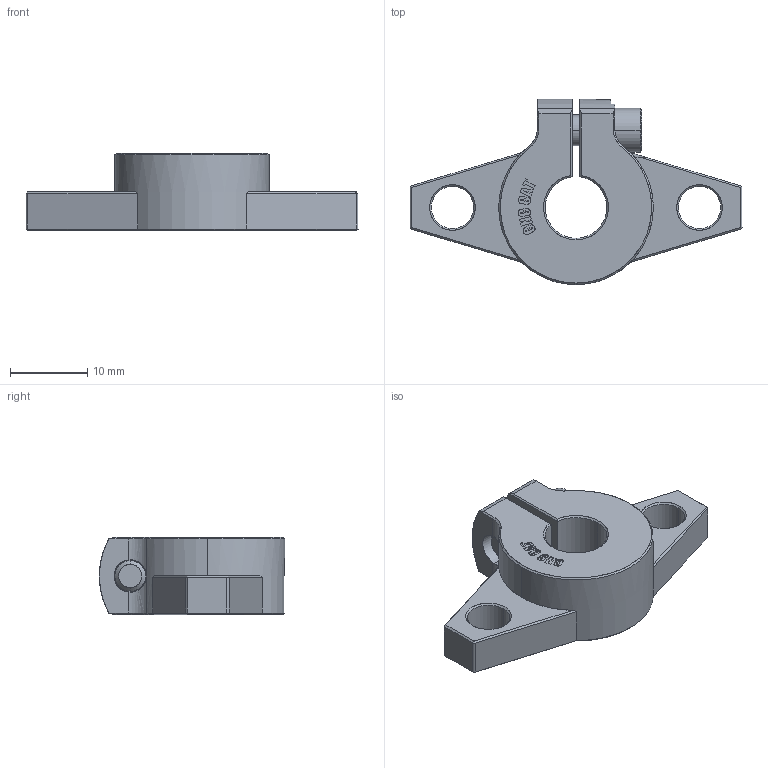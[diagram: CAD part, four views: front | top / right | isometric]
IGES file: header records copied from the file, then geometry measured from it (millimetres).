
Start section: SolidWorks IGES file using analytic representation for surfaces
Global section: file name: D:\SOLIDWORKS PROEKTI\freelance cnc cat\TRETA SERIJA SHF, SK\SHF\SHF8.IGS; native system: SolidWorks 2016; preprocessor: SolidWorks 2016; author: User; date: 170808.181409; units: millimetre
Bounding box: 43 x 24 x 10 mm (x, y, z)
Surface area: 2712.4 mm2 (no closed solid volume)
Topology: 0 solids, 0 shells, 205 faces, 2540 edges, 3065 vertices
Faces by surface type: bspline 137, revolution 68
